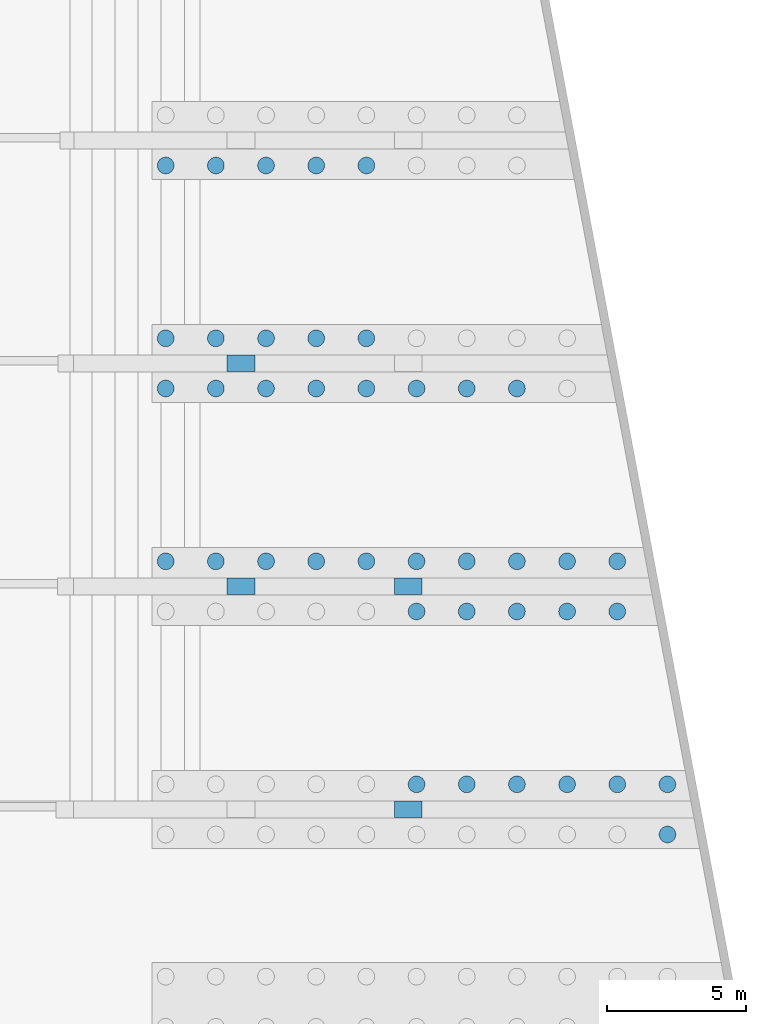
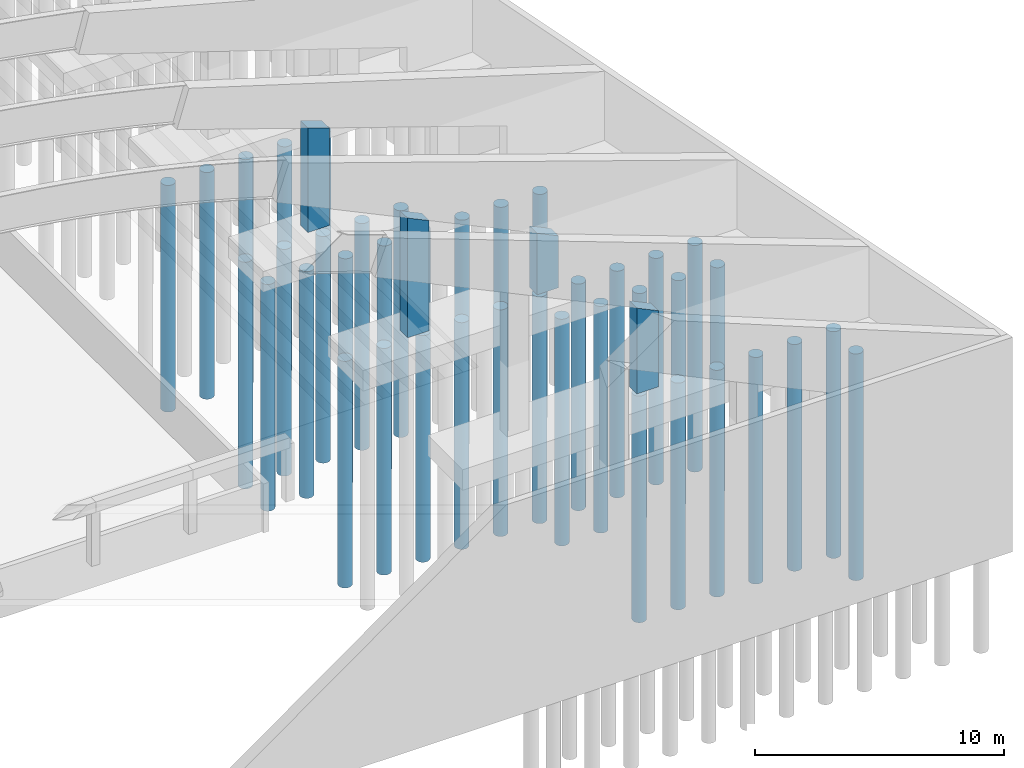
# One storey, part 3 of 10: 44 columns.
"""IFC2X3 building model written with IfcOpenShell, lengths in millimetres."""

from ifc_helpers import new_model, si_unit, derived_unit, direction, frame, frame_2d, origin, origin_2d_with_axis, place, context, subcontext, project, spatial, rectangle, circle, extrude, clip, halfspace, source, transform, mapped, material, type_object, type_shapes, element, save


model = new_model("IFC2X3")

# Units and contexts
model_context = context("Model", 3, precision=0.01, world=origin(), true_north=direction((6.12303176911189e-17, 1.0)))
body_context = subcontext(model_context, "Body", "Model", "MODEL_VIEW")
ifc_project = project(units=[si_unit("LENGTHUNIT", "METRE", prefix="MILLI"), si_unit("AREAUNIT", "SQUARE_METRE"), si_unit("VOLUMEUNIT", "CUBIC_METRE"), si_unit("PLANEANGLEUNIT", "RADIAN"), si_unit("MASSUNIT", "GRAM", prefix="KILO"), derived_unit("MASSDENSITYUNIT", [(si_unit("MASSUNIT", "GRAM", prefix="KILO"), 1), (si_unit("LENGTHUNIT", "METRE"), -3)]), si_unit("TIMEUNIT", "SECOND"), si_unit("FREQUENCYUNIT", "HERTZ"), si_unit("THERMODYNAMICTEMPERATUREUNIT", "DEGREE_CELSIUS"), derived_unit("THERMALTRANSMITTANCEUNIT", [(si_unit("MASSUNIT", "GRAM", prefix="KILO"), 1), (si_unit("THERMODYNAMICTEMPERATUREUNIT", "KELVIN"), -1), (si_unit("TIMEUNIT", "SECOND"), -3)]), derived_unit("VOLUMETRICFLOWRATEUNIT", [(si_unit("LENGTHUNIT", "METRE"), 3), (si_unit("TIMEUNIT", "SECOND"), -1)]), si_unit("ELECTRICCURRENTUNIT", "AMPERE"), si_unit("ELECTRICVOLTAGEUNIT", "VOLT"), si_unit("POWERUNIT", "WATT"), si_unit("FORCEUNIT", "NEWTON", prefix="KILO"), si_unit("ILLUMINANCEUNIT", "LUX"), si_unit("LUMINOUSFLUXUNIT", "LUMEN"), si_unit("LUMINOUSINTENSITYUNIT", "CANDELA"), derived_unit("USERDEFINED", [(si_unit("MASSUNIT", "GRAM", prefix="KILO"), -1), (si_unit("LENGTHUNIT", "METRE"), -2), (si_unit("TIMEUNIT", "SECOND"), 3), (si_unit("LUMINOUSFLUXUNIT", "LUMEN"), 1)]), derived_unit("LINEARVELOCITYUNIT", [(si_unit("LENGTHUNIT", "METRE"), 1), (si_unit("TIMEUNIT", "SECOND"), -1)]), si_unit("PRESSUREUNIT", "PASCAL"), derived_unit("USERDEFINED", [(si_unit("LENGTHUNIT", "METRE"), -2), (si_unit("MASSUNIT", "GRAM", prefix="KILO"), 1), (si_unit("TIMEUNIT", "SECOND"), -2)])], contexts=[model_context])

# Site, building, storey
site_placement = place(None, origin())
site = spatial("IfcSite", under=ifc_project, at=site_placement, Name="Default", CompositionType="ELEMENT")
building_placement = place(site_placement, origin())
building = spatial("IfcBuilding", under=site, at=building_placement, CompositionType="ELEMENT")
storey_placement = place(building_placement, origin())
storey = spatial("IfcBuildingStorey", under=building, at=storey_placement, Name="Default", CompositionType="ELEMENT", Elevation=0.0)

# Columns
ifc_material = material(Name="CONCRETE/28MPa 117")
column_type_1 = type_object("IfcColumnType", Name="PILOTE", PredefinedType="COLUMN")
shared_shape_1 = source(origin(), body_context, "Body", "SweptSolid", [
    extrude(circle(Radius=300.000000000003, at=origin_2d_with_axis()), frame((119408.86, 89902.3654658, -15300.0), z_axis=(0.0, 0.0, 1.0), x_axis=(-1.0, 0.0, 0.0)), (0.0, 0.0, 1.0), 11100.0),
])
type_shapes(column_type_1, [shared_shape_1])
column_1_placement = place(building_placement, origin())
element("IfcColumn", 1, at=column_1_placement, inside=storey, type_object=column_type_1, material=ifc_material, Name="PILOTE 176:PILOTE 176", ObjectType="PILOTE 176:PILOTE 176", context=body_context, shape_type="MappedRepresentation", body=[
    mapped(shared_shape_1, transform((0.0, 0.0, 0.0), scale=1.0)),
])
column_type_2 = type_object("IfcColumnType", Name="PILOTE", PredefinedType="COLUMN")
shared_shape_2 = source(origin(), body_context, "Body", "SweptSolid", [
    extrude(circle(Radius=300.000000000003, at=origin_2d_with_axis()), frame((117608.86, 89902.3654658, -15300.0), z_axis=(0.0, 0.0, 1.0), x_axis=(-1.0, 0.0, 0.0)), (0.0, 0.0, 1.0), 11100.0),
])
type_shapes(column_type_2, [shared_shape_2])
column_2_placement = place(building_placement, origin())
element("IfcColumn", 2, at=column_2_placement, inside=storey, type_object=column_type_2, material=ifc_material, Name="PILOTE 192:PILOTE 192", ObjectType="PILOTE 192:PILOTE 192", context=body_context, shape_type="MappedRepresentation", body=[
    mapped(shared_shape_2, transform((0.0, 0.0, 0.0), scale=1.0)),
])
column_type_3 = type_object("IfcColumnType", Name="PILOTE", PredefinedType="COLUMN")
shared_shape_3 = source(origin(), body_context, "Body", "SweptSolid", [
    extrude(circle(Radius=300.000000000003, at=origin_2d_with_axis()), frame((115808.86, 89902.3654658, -15300.0), z_axis=(0.0, 0.0, 1.0), x_axis=(-1.0, 0.0, 0.0)), (0.0, 0.0, 1.0), 11100.0),
])
type_shapes(column_type_3, [shared_shape_3])
column_3_placement = place(building_placement, origin())
element("IfcColumn", 3, at=column_3_placement, inside=storey, type_object=column_type_3, material=ifc_material, Name="PILOTE 208:PILOTE 208", ObjectType="PILOTE 208:PILOTE 208", context=body_context, shape_type="MappedRepresentation", body=[
    mapped(shared_shape_3, transform((0.0, 0.0, 0.0), scale=1.0)),
])
column_type_4 = type_object("IfcColumnType", Name="PILOTE", PredefinedType="COLUMN")
shared_shape_4 = source(origin(), body_context, "Body", "SweptSolid", [
    extrude(circle(Radius=300.000000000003, at=origin_2d_with_axis()), frame((114008.86, 91702.3654658, -15300.0), z_axis=(0.0, 0.0, 1.0), x_axis=(-1.0, 0.0, 0.0)), (0.0, 0.0, 1.0), 11100.0),
])
type_shapes(column_type_4, [shared_shape_4])
column_4_placement = place(building_placement, origin())
element("IfcColumn", 4, at=column_4_placement, inside=storey, type_object=column_type_4, material=ifc_material, Name="PILOTE 218:PILOTE 218", ObjectType="PILOTE 218:PILOTE 218", context=body_context, shape_type="MappedRepresentation", body=[
    mapped(shared_shape_4, transform((0.0, 0.0, 0.0), scale=1.0)),
])
column_type_5 = type_object("IfcColumnType", Name="PILOTE", PredefinedType="COLUMN")
shared_shape_5 = source(origin(), body_context, "Body", "SweptSolid", [
    extrude(circle(Radius=300.000000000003, at=origin_2d_with_axis()), frame((114008.86, 89902.3654658, -15300.0), z_axis=(0.0, 0.0, 1.0), x_axis=(-1.0, 0.0, 0.0)), (0.0, 0.0, 1.0), 11100.0),
])
type_shapes(column_type_5, [shared_shape_5])
column_5_placement = place(building_placement, origin())
element("IfcColumn", 5, at=column_5_placement, inside=storey, type_object=column_type_5, material=ifc_material, Name="PILOTE 228:PILOTE 228", ObjectType="PILOTE 228:PILOTE 228", context=body_context, shape_type="MappedRepresentation", body=[
    mapped(shared_shape_5, transform((0.0, 0.0, 0.0), scale=1.0)),
])
column_type_6 = type_object("IfcColumnType", Name="PILOTE", PredefinedType="COLUMN")
shared_shape_6 = source(origin(), body_context, "Body", "SweptSolid", [
    extrude(circle(Radius=300.000000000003, at=origin_2d_with_axis()), frame((112208.86, 91702.3654658, -15300.0), z_axis=(0.0, 0.0, 1.0), x_axis=(-1.0, 0.0, 0.0)), (0.0, 0.0, 1.0), 11100.0),
])
type_shapes(column_type_6, [shared_shape_6])
column_6_placement = place(building_placement, origin())
element("IfcColumn", 6, at=column_6_placement, inside=storey, type_object=column_type_6, material=ifc_material, Name="PILOTE 236:PILOTE 236", ObjectType="PILOTE 236:PILOTE 236", context=body_context, shape_type="MappedRepresentation", body=[
    mapped(shared_shape_6, transform((0.0, 0.0, 0.0), scale=1.0)),
])
column_type_7 = type_object("IfcColumnType", Name="PILOTE", PredefinedType="COLUMN")
shared_shape_7 = source(origin(), body_context, "Body", "SweptSolid", [
    extrude(circle(Radius=300.000000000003, at=origin_2d_with_axis()), frame((112208.86, 89902.3654658, -15300.0), z_axis=(0.0, 0.0, 1.0), x_axis=(-1.0, 0.0, 0.0)), (0.0, 0.0, 1.0), 11100.0),
])
type_shapes(column_type_7, [shared_shape_7])
column_7_placement = place(building_placement, origin())
element("IfcColumn", 7, at=column_7_placement, inside=storey, type_object=column_type_7, material=ifc_material, Name="PILOTE 244:PILOTE 244", ObjectType="PILOTE 244:PILOTE 244", context=body_context, shape_type="MappedRepresentation", body=[
    mapped(shared_shape_7, transform((0.0, 0.0, 0.0), scale=1.0)),
])
column_type_8 = type_object("IfcColumnType", Name="PILOTE", PredefinedType="COLUMN")
shared_shape_8 = source(origin(), body_context, "Body", "SweptSolid", [
    extrude(circle(Radius=300.000000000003, at=origin_2d_with_axis()), frame((110408.86, 91702.3654658, -15300.0), z_axis=(0.0, 0.0, 1.0), x_axis=(-1.0, 0.0, 0.0)), (0.0, 0.0, 1.0), 11100.0),
])
type_shapes(column_type_8, [shared_shape_8])
column_8_placement = place(building_placement, origin())
element("IfcColumn", 8, at=column_8_placement, inside=storey, type_object=column_type_8, material=ifc_material, Name="PILOTE 252:PILOTE 252", ObjectType="PILOTE 252:PILOTE 252", context=body_context, shape_type="MappedRepresentation", body=[
    mapped(shared_shape_8, transform((0.0, 0.0, 0.0), scale=1.0)),
])
column_type_9 = type_object("IfcColumnType", Name="PILOTE", PredefinedType="COLUMN")
shared_shape_9 = source(origin(), body_context, "Body", "SweptSolid", [
    extrude(circle(Radius=300.000000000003, at=origin_2d_with_axis()), frame((110408.86, 89902.3654658, -15300.0), z_axis=(0.0, 0.0, 1.0), x_axis=(-1.0, 0.0, 0.0)), (0.0, 0.0, 1.0), 11100.0),
])
type_shapes(column_type_9, [shared_shape_9])
column_9_placement = place(building_placement, origin())
element("IfcColumn", 9, at=column_9_placement, inside=storey, type_object=column_type_9, material=ifc_material, Name="PILOTE 260:PILOTE 260", ObjectType="PILOTE 260:PILOTE 260", context=body_context, shape_type="MappedRepresentation", body=[
    mapped(shared_shape_9, transform((0.0, 0.0, 0.0), scale=1.0)),
])
column_type_10 = type_object("IfcColumnType", Name="PILOTE", PredefinedType="COLUMN")
shared_shape_10 = source(origin(), body_context, "Body", "SweptSolid", [
    extrude(circle(Radius=300.000000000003, at=origin_2d_with_axis()), frame((108608.86, 91702.3654658, -15300.0), z_axis=(0.0, 0.0, 1.0), x_axis=(-1.0, 0.0, 0.0)), (0.0, 0.0, 1.0), 11100.0),
])
type_shapes(column_type_10, [shared_shape_10])
column_10_placement = place(building_placement, origin())
element("IfcColumn", 10, at=column_10_placement, inside=storey, type_object=column_type_10, material=ifc_material, Name="PILOTE 270:PILOTE 270", ObjectType="PILOTE 270:PILOTE 270", context=body_context, shape_type="MappedRepresentation", body=[
    mapped(shared_shape_10, transform((0.0, 0.0, 0.0), scale=1.0)),
])
column_type_11 = type_object("IfcColumnType", Name="PILOTE", PredefinedType="COLUMN")
shared_shape_11 = source(origin(), body_context, "Body", "SweptSolid", [
    extrude(circle(Radius=300.000000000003, at=origin_2d_with_axis()), frame((106808.86, 91702.3654658, -15300.0), z_axis=(0.0, 0.0, 1.0), x_axis=(-1.0, 0.0, 0.0)), (0.0, 0.0, 1.0), 11100.0),
])
type_shapes(column_type_11, [shared_shape_11])
column_11_placement = place(building_placement, origin())
element("IfcColumn", 11, at=column_11_placement, inside=storey, type_object=column_type_11, material=ifc_material, Name="PILOTE 278:PILOTE 278", ObjectType="PILOTE 278:PILOTE 278", context=body_context, shape_type="MappedRepresentation", body=[
    mapped(shared_shape_11, transform((0.0, 0.0, 0.0), scale=1.0)),
])
column_type_12 = type_object("IfcColumnType", Name="PILOTE", PredefinedType="COLUMN")
shared_shape_12 = source(origin(), body_context, "Body", "SweptSolid", [
    extrude(circle(Radius=300.000000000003, at=origin_2d_with_axis()), frame((108608.86, 89902.3654658, -15300.0), z_axis=(0.0, 0.0, 1.0), x_axis=(-1.0, 0.0, 0.0)), (0.0, 0.0, 1.0), 11100.0),
])
type_shapes(column_type_12, [shared_shape_12])
column_12_placement = place(building_placement, origin())
element("IfcColumn", 12, at=column_12_placement, inside=storey, type_object=column_type_12, material=ifc_material, Name="PILOTE 288:PILOTE 288", ObjectType="PILOTE 288:PILOTE 288", context=body_context, shape_type="MappedRepresentation", body=[
    mapped(shared_shape_12, transform((0.0, 0.0, 0.0), scale=1.0)),
])
column_type_13 = type_object("IfcColumnType", Name="PILOTE", PredefinedType="COLUMN")
shared_shape_13 = source(origin(), body_context, "Body", "SweptSolid", [
    extrude(circle(Radius=300.000000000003, at=origin_2d_with_axis()), frame((106808.86, 89902.3654658, -15300.0), z_axis=(0.0, 0.0, 1.0), x_axis=(-1.0, 0.0, 0.0)), (0.0, 0.0, 1.0), 11100.0),
])
type_shapes(column_type_13, [shared_shape_13])
column_13_placement = place(building_placement, origin())
element("IfcColumn", 13, at=column_13_placement, inside=storey, type_object=column_type_13, material=ifc_material, Name="PILOTE 296:PILOTE 296", ObjectType="PILOTE 296:PILOTE 296", context=body_context, shape_type="MappedRepresentation", body=[
    mapped(shared_shape_13, transform((0.0, 0.0, 0.0), scale=1.0)),
])
column_type_14 = type_object("IfcColumnType", Name="PILOTE", PredefinedType="COLUMN")
shared_shape_14 = source(origin(), body_context, "Body", "SweptSolid", [
    extrude(circle(Radius=300.000000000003, at=origin_2d_with_axis()), frame((114008.86, 97902.3654658, -15300.0), z_axis=(0.0, 0.0, 1.0), x_axis=(-1.0, 0.0, 0.0)), (0.0, 0.0, 1.0), 11100.0),
])
type_shapes(column_type_14, [shared_shape_14])
column_14_placement = place(building_placement, origin())
element("IfcColumn", 14, at=column_14_placement, inside=storey, type_object=column_type_14, material=ifc_material, Name="PILOTE 714:PILOTE 714", ObjectType="PILOTE 714:PILOTE 714", context=body_context, shape_type="MappedRepresentation", body=[
    mapped(shared_shape_14, transform((0.0, 0.0, 0.0), scale=1.0)),
])
column_type_15 = type_object("IfcColumnType", Name="PILOTE", PredefinedType="COLUMN")
shared_shape_15 = source(origin(), body_context, "Body", "SweptSolid", [
    extrude(circle(Radius=300.000000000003, at=origin_2d_with_axis()), frame((112208.86, 97902.3654658, -15300.0), z_axis=(0.0, 0.0, 1.0), x_axis=(-1.0, 0.0, 0.0)), (0.0, 0.0, 1.0), 11100.0),
])
type_shapes(column_type_15, [shared_shape_15])
column_15_placement = place(building_placement, origin())
element("IfcColumn", 15, at=column_15_placement, inside=storey, type_object=column_type_15, material=ifc_material, Name="PILOTE 730:PILOTE 730", ObjectType="PILOTE 730:PILOTE 730", context=body_context, shape_type="MappedRepresentation", body=[
    mapped(shared_shape_15, transform((0.0, 0.0, 0.0), scale=1.0)),
])
column_type_16 = type_object("IfcColumnType", Name="PILOTE", PredefinedType="COLUMN")
shared_shape_16 = source(origin(), body_context, "Body", "SweptSolid", [
    extrude(circle(Radius=300.000000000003, at=origin_2d_with_axis()), frame((110408.86, 97902.3654658, -15300.0), z_axis=(0.0, 0.0, 1.0), x_axis=(-1.0, 0.0, 0.0)), (0.0, 0.0, 1.0), 11100.0),
])
type_shapes(column_type_16, [shared_shape_16])
column_16_placement = place(building_placement, origin())
element("IfcColumn", 16, at=column_16_placement, inside=storey, type_object=column_type_16, material=ifc_material, Name="PILOTE 746:PILOTE 746", ObjectType="PILOTE 746:PILOTE 746", context=body_context, shape_type="MappedRepresentation", body=[
    mapped(shared_shape_16, transform((0.0, 0.0, 0.0), scale=1.0)),
])
column_type_17 = type_object("IfcColumnType", Name="PILOTE", PredefinedType="COLUMN")
shared_shape_17 = source(origin(), body_context, "Body", "SweptSolid", [
    extrude(circle(Radius=300.000000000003, at=origin_2d_with_axis()), frame((108608.86, 97902.3654658, -15300.0), z_axis=(0.0, 0.0, 1.0), x_axis=(-1.0, 0.0, 0.0)), (0.0, 0.0, 1.0), 11100.0),
])
type_shapes(column_type_17, [shared_shape_17])
column_17_placement = place(building_placement, origin())
element("IfcColumn", 17, at=column_17_placement, inside=storey, type_object=column_type_17, material=ifc_material, Name="PILOTE 770:PILOTE 770", ObjectType="PILOTE 770:PILOTE 770", context=body_context, shape_type="MappedRepresentation", body=[
    mapped(shared_shape_17, transform((0.0, 0.0, 0.0), scale=1.0)),
])
column_type_18 = type_object("IfcColumnType", Name="PILOTE", PredefinedType="COLUMN")
shared_shape_18 = source(origin(), body_context, "Body", "SweptSolid", [
    extrude(circle(Radius=300.000000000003, at=origin_2d_with_axis()), frame((106808.86, 97902.3654658, -15300.0), z_axis=(0.0, 0.0, 1.0), x_axis=(-1.0, 0.0, 0.0)), (0.0, 0.0, 1.0), 11100.0),
])
type_shapes(column_type_18, [shared_shape_18])
column_18_placement = place(building_placement, origin())
element("IfcColumn", 18, at=column_18_placement, inside=storey, type_object=column_type_18, material=ifc_material, Name="PILOTE 778:PILOTE 778", ObjectType="PILOTE 778:PILOTE 778", context=body_context, shape_type="MappedRepresentation", body=[
    mapped(shared_shape_18, transform((0.0, 0.0, 0.0), scale=1.0)),
])
column_type_19 = type_object("IfcColumnType", Name="PILOTE", PredefinedType="COLUMN")
shared_shape_19 = source(origin(), body_context, "Body", "SweptSolid", [
    extrude(circle(Radius=300.000000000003, at=origin_2d_with_axis()), frame((123008.86, 83702.3654658, -15300.0), z_axis=(0.0, 0.0, 1.0), x_axis=(-1.0, 0.0, 0.0)), (0.0, 0.0, 1.0), 11100.0),
])
type_shapes(column_type_19, [shared_shape_19])
column_19_placement = place(building_placement, origin())
element("IfcColumn", 19, at=column_19_placement, inside=storey, type_object=column_type_19, material=ifc_material, Name="PILOTE 788:PILOTE 788", ObjectType="PILOTE 788:PILOTE 788", context=body_context, shape_type="MappedRepresentation", body=[
    mapped(shared_shape_19, transform((0.0, 0.0, 0.0), scale=1.0)),
])
column_type_20 = type_object("IfcColumnType", Name="PILOTE", PredefinedType="COLUMN")
shared_shape_20 = source(origin(), body_context, "Body", "SweptSolid", [
    extrude(circle(Radius=300.000000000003, at=origin_2d_with_axis()), frame((123008.86, 81902.3654658, -15300.0), z_axis=(0.0, 0.0, 1.0), x_axis=(-1.0, 0.0, 0.0)), (0.0, 0.0, 1.0), 11100.0),
])
type_shapes(column_type_20, [shared_shape_20])
column_20_placement = place(building_placement, origin())
element("IfcColumn", 20, at=column_20_placement, inside=storey, type_object=column_type_20, material=ifc_material, Name="PILOTE 798:PILOTE 798", ObjectType="PILOTE 798:PILOTE 798", context=body_context, shape_type="MappedRepresentation", body=[
    mapped(shared_shape_20, transform((0.0, 0.0, 0.0), scale=1.0)),
])
column_type_21 = type_object("IfcColumnType", Name="PILOTE", PredefinedType="COLUMN")
shared_shape_21 = source(origin(), body_context, "Body", "SweptSolid", [
    extrude(circle(Radius=300.000000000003, at=origin_2d_with_axis()), frame((121208.86, 83702.3654658, -15300.0), z_axis=(0.0, 0.0, 1.0), x_axis=(-1.0, 0.0, 0.0)), (0.0, 0.0, 1.0), 11100.0),
])
type_shapes(column_type_21, [shared_shape_21])
column_21_placement = place(building_placement, origin())
element("IfcColumn", 21, at=column_21_placement, inside=storey, type_object=column_type_21, material=ifc_material, Name="PILOTE 806:PILOTE 806", ObjectType="PILOTE 806:PILOTE 806", context=body_context, shape_type="MappedRepresentation", body=[
    mapped(shared_shape_21, transform((0.0, 0.0, 0.0), scale=1.0)),
])
column_type_22 = type_object("IfcColumnType", Name="PILOTE", PredefinedType="COLUMN")
shared_shape_22 = source(origin(), body_context, "Body", "SweptSolid", [
    extrude(circle(Radius=300.000000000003, at=origin_2d_with_axis()), frame((121208.86, 81902.3654658, -15300.0), z_axis=(0.0, 0.0, 1.0), x_axis=(-1.0, 0.0, 0.0)), (0.0, 0.0, 1.0), 11100.0),
])
type_shapes(column_type_22, [shared_shape_22])
column_22_placement = place(building_placement, origin())
element("IfcColumn", 22, at=column_22_placement, inside=storey, type_object=column_type_22, material=ifc_material, Name="PILOTE 816:PILOTE 816", ObjectType="PILOTE 816:PILOTE 816", context=body_context, shape_type="MappedRepresentation", body=[
    mapped(shared_shape_22, transform((0.0, 0.0, 0.0), scale=1.0)),
])
column_type_23 = type_object("IfcColumnType", Name="PILOTE", PredefinedType="COLUMN")
shared_shape_23 = source(origin(), body_context, "Body", "SweptSolid", [
    extrude(circle(Radius=300.000000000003, at=origin_2d_with_axis()), frame((119408.86, 83702.3654658, -15300.0), z_axis=(0.0, 0.0, 1.0), x_axis=(-1.0, 0.0, 0.0)), (0.0, 0.0, 1.0), 11100.0),
])
type_shapes(column_type_23, [shared_shape_23])
column_23_placement = place(building_placement, origin())
element("IfcColumn", 23, at=column_23_placement, inside=storey, type_object=column_type_23, material=ifc_material, Name="PILOTE 824:PILOTE 824", ObjectType="PILOTE 824:PILOTE 824", context=body_context, shape_type="MappedRepresentation", body=[
    mapped(shared_shape_23, transform((0.0, 0.0, 0.0), scale=1.0)),
])
column_type_24 = type_object("IfcColumnType", Name="PILOTE", PredefinedType="COLUMN")
shared_shape_24 = source(origin(), body_context, "Body", "SweptSolid", [
    extrude(circle(Radius=300.000000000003, at=origin_2d_with_axis()), frame((119408.86, 81902.3654658, -15300.0), z_axis=(0.0, 0.0, 1.0), x_axis=(-1.0, 0.0, 0.0)), (0.0, 0.0, 1.0), 11100.0),
])
type_shapes(column_type_24, [shared_shape_24])
column_24_placement = place(building_placement, origin())
element("IfcColumn", 24, at=column_24_placement, inside=storey, type_object=column_type_24, material=ifc_material, Name="PILOTE 832:PILOTE 832", ObjectType="PILOTE 832:PILOTE 832", context=body_context, shape_type="MappedRepresentation", body=[
    mapped(shared_shape_24, transform((0.0, 0.0, 0.0), scale=1.0)),
])
column_type_25 = type_object("IfcColumnType", Name="PILOTE", PredefinedType="COLUMN")
shared_shape_25 = source(origin(), body_context, "Body", "SweptSolid", [
    extrude(circle(Radius=300.000000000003, at=origin_2d_with_axis()), frame((117608.86, 83702.3654658, -15300.0), z_axis=(0.0, 0.0, 1.0), x_axis=(-1.0, 0.0, 0.0)), (0.0, 0.0, 1.0), 11100.0),
])
type_shapes(column_type_25, [shared_shape_25])
column_25_placement = place(building_placement, origin())
element("IfcColumn", 25, at=column_25_placement, inside=storey, type_object=column_type_25, material=ifc_material, Name="PILOTE 840:PILOTE 840", ObjectType="PILOTE 840:PILOTE 840", context=body_context, shape_type="MappedRepresentation", body=[
    mapped(shared_shape_25, transform((0.0, 0.0, 0.0), scale=1.0)),
])
column_type_26 = type_object("IfcColumnType", Name="PILOTE", PredefinedType="COLUMN")
shared_shape_26 = source(origin(), body_context, "Body", "SweptSolid", [
    extrude(circle(Radius=300.000000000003, at=origin_2d_with_axis()), frame((117608.86, 81902.3654658, -15300.0), z_axis=(0.0, 0.0, 1.0), x_axis=(-1.0, 0.0, 0.0)), (0.0, 0.0, 1.0), 11100.0),
])
type_shapes(column_type_26, [shared_shape_26])
column_26_placement = place(building_placement, origin())
element("IfcColumn", 26, at=column_26_placement, inside=storey, type_object=column_type_26, material=ifc_material, Name="PILOTE 848:PILOTE 848", ObjectType="PILOTE 848:PILOTE 848", context=body_context, shape_type="MappedRepresentation", body=[
    mapped(shared_shape_26, transform((0.0, 0.0, 0.0), scale=1.0)),
])
column_type_27 = type_object("IfcColumnType", Name="PILOTE", PredefinedType="COLUMN")
shared_shape_27 = source(origin(), body_context, "Body", "SweptSolid", [
    extrude(circle(Radius=300.000000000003, at=origin_2d_with_axis()), frame((115808.86, 83702.3654658, -15300.0), z_axis=(0.0, 0.0, 1.0), x_axis=(-1.0, 0.0, 0.0)), (0.0, 0.0, 1.0), 11100.0),
])
type_shapes(column_type_27, [shared_shape_27])
column_27_placement = place(building_placement, origin())
element("IfcColumn", 27, at=column_27_placement, inside=storey, type_object=column_type_27, material=ifc_material, Name="PILOTE 856:PILOTE 856", ObjectType="PILOTE 856:PILOTE 856", context=body_context, shape_type="MappedRepresentation", body=[
    mapped(shared_shape_27, transform((0.0, 0.0, 0.0), scale=1.0)),
])
column_type_28 = type_object("IfcColumnType", Name="PILOTE", PredefinedType="COLUMN")
shared_shape_28 = source(origin(), body_context, "Body", "SweptSolid", [
    extrude(circle(Radius=300.000000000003, at=origin_2d_with_axis()), frame((115808.86, 81902.3654658, -15300.0), z_axis=(0.0, 0.0, 1.0), x_axis=(-1.0, 0.0, 0.0)), (0.0, 0.0, 1.0), 11100.0),
])
type_shapes(column_type_28, [shared_shape_28])
column_28_placement = place(building_placement, origin())
element("IfcColumn", 28, at=column_28_placement, inside=storey, type_object=column_type_28, material=ifc_material, Name="PILOTE 864:PILOTE 864", ObjectType="PILOTE 864:PILOTE 864", context=body_context, shape_type="MappedRepresentation", body=[
    mapped(shared_shape_28, transform((0.0, 0.0, 0.0), scale=1.0)),
])
column_type_29 = type_object("IfcColumnType", Name="PILOTE", PredefinedType="COLUMN")
shared_shape_29 = source(origin(), body_context, "Body", "SweptSolid", [
    extrude(circle(Radius=300.000000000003, at=origin_2d_with_axis()), frame((114008.86, 83702.3654658, -15300.0), z_axis=(0.0, 0.0, 1.0), x_axis=(-1.0, 0.0, 0.0)), (0.0, 0.0, 1.0), 11100.0),
])
type_shapes(column_type_29, [shared_shape_29])
column_29_placement = place(building_placement, origin())
element("IfcColumn", 29, at=column_29_placement, inside=storey, type_object=column_type_29, material=ifc_material, Name="PILOTE 872:PILOTE 872", ObjectType="PILOTE 872:PILOTE 872", context=body_context, shape_type="MappedRepresentation", body=[
    mapped(shared_shape_29, transform((0.0, 0.0, 0.0), scale=1.0)),
])
column_type_30 = type_object("IfcColumnType", Name="PILOTE", PredefinedType="COLUMN")
shared_shape_30 = source(origin(), body_context, "Body", "SweptSolid", [
    extrude(circle(Radius=300.000000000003, at=origin_2d_with_axis()), frame((112208.86, 83702.3654658, -15300.0), z_axis=(0.0, 0.0, 1.0), x_axis=(-1.0, 0.0, 0.0)), (0.0, 0.0, 1.0), 11100.0),
])
type_shapes(column_type_30, [shared_shape_30])
column_30_placement = place(building_placement, origin())
element("IfcColumn", 30, at=column_30_placement, inside=storey, type_object=column_type_30, material=ifc_material, Name="PILOTE 890:PILOTE 890", ObjectType="PILOTE 890:PILOTE 890", context=body_context, shape_type="MappedRepresentation", body=[
    mapped(shared_shape_30, transform((0.0, 0.0, 0.0), scale=1.0)),
])
column_type_31 = type_object("IfcColumnType", Name="PILOTE", PredefinedType="COLUMN")
shared_shape_31 = source(origin(), body_context, "Body", "SweptSolid", [
    extrude(circle(Radius=300.000000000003, at=origin_2d_with_axis()), frame((110408.86, 83702.3654658, -15300.0), z_axis=(0.0, 0.0, 1.0), x_axis=(-1.0, 0.0, 0.0)), (0.0, 0.0, 1.0), 11100.0),
])
type_shapes(column_type_31, [shared_shape_31])
column_31_placement = place(building_placement, origin())
element("IfcColumn", 31, at=column_31_placement, inside=storey, type_object=column_type_31, material=ifc_material, Name="PILOTE 906:PILOTE 906", ObjectType="PILOTE 906:PILOTE 906", context=body_context, shape_type="MappedRepresentation", body=[
    mapped(shared_shape_31, transform((0.0, 0.0, 0.0), scale=1.0)),
])
column_type_32 = type_object("IfcColumnType", Name="PILOTE", PredefinedType="COLUMN")
shared_shape_32 = source(origin(), body_context, "Body", "SweptSolid", [
    extrude(circle(Radius=300.000000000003, at=origin_2d_with_axis()), frame((108608.86, 83702.3654658, -15300.0), z_axis=(0.0, 0.0, 1.0), x_axis=(-1.0, 0.0, 0.0)), (0.0, 0.0, 1.0), 11100.0),
])
type_shapes(column_type_32, [shared_shape_32])
column_32_placement = place(building_placement, origin())
element("IfcColumn", 32, at=column_32_placement, inside=storey, type_object=column_type_32, material=ifc_material, Name="PILOTE 922:PILOTE 922", ObjectType="PILOTE 922:PILOTE 922", context=body_context, shape_type="MappedRepresentation", body=[
    mapped(shared_shape_32, transform((0.0, 0.0, 0.0), scale=1.0)),
])
column_type_33 = type_object("IfcColumnType", Name="PILOTE", PredefinedType="COLUMN")
shared_shape_33 = source(origin(), body_context, "Body", "SweptSolid", [
    extrude(circle(Radius=300.000000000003, at=origin_2d_with_axis()), frame((106808.86, 83702.3654658, -15300.0), z_axis=(0.0, 0.0, 1.0), x_axis=(-1.0, 0.0, 0.0)), (0.0, 0.0, 1.0), 11100.0),
])
type_shapes(column_type_33, [shared_shape_33])
column_33_placement = place(building_placement, origin())
element("IfcColumn", 33, at=column_33_placement, inside=storey, type_object=column_type_33, material=ifc_material, Name="PILOTE 930:PILOTE 930", ObjectType="PILOTE 930:PILOTE 930", context=body_context, shape_type="MappedRepresentation", body=[
    mapped(shared_shape_33, transform((0.0, 0.0, 0.0), scale=1.0)),
])
column_type_34 = type_object("IfcColumnType", Name="PILOTE", PredefinedType="COLUMN")
shared_shape_34 = source(origin(), body_context, "Body", "SweptSolid", [
    extrude(circle(Radius=300.000000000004, at=origin_2d_with_axis()), frame((124808.86, 75702.3654658, -15300.0), z_axis=(0.0, 0.0, 1.0), x_axis=(-1.0, 0.0, 0.0)), (0.0, 0.0, 1.0), 11100.0),
])
type_shapes(column_type_34, [shared_shape_34])
column_34_placement = place(building_placement, origin())
element("IfcColumn", 34, at=column_34_placement, inside=storey, type_object=column_type_34, material=ifc_material, Name="PILOTE 1146:PILOTE 1146", ObjectType="PILOTE 1146:PILOTE 1146", context=body_context, shape_type="MappedRepresentation", body=[
    mapped(shared_shape_34, transform((0.0, 0.0, 0.0), scale=1.0)),
])
column_type_35 = type_object("IfcColumnType", Name="PILOTE", PredefinedType="COLUMN")
shared_shape_35 = source(origin(), body_context, "Body", "SweptSolid", [
    extrude(circle(Radius=300.000000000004, at=origin_2d_with_axis()), frame((124808.86, 73902.3654658, -15300.0), z_axis=(0.0, 0.0, 1.0), x_axis=(-1.0, 0.0, 0.0)), (0.0, 0.0, 1.0), 11100.0),
])
type_shapes(column_type_35, [shared_shape_35])
column_35_placement = place(building_placement, origin())
element("IfcColumn", 35, at=column_35_placement, inside=storey, type_object=column_type_35, material=ifc_material, Name="PILOTE 1154:PILOTE 1154", ObjectType="PILOTE 1154:PILOTE 1154", context=body_context, shape_type="MappedRepresentation", body=[
    mapped(shared_shape_35, transform((0.0, 0.0, 0.0), scale=1.0)),
])
column_type_36 = type_object("IfcColumnType", Name="PILOTE", PredefinedType="COLUMN")
shared_shape_36 = source(origin(), body_context, "Body", "SweptSolid", [
    extrude(circle(Radius=300.000000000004, at=origin_2d_with_axis()), frame((123008.86, 75702.3654658, -15300.0), z_axis=(0.0, 0.0, 1.0), x_axis=(-1.0, 0.0, 0.0)), (0.0, 0.0, 1.0), 11100.0),
])
type_shapes(column_type_36, [shared_shape_36])
column_36_placement = place(building_placement, origin())
element("IfcColumn", 36, at=column_36_placement, inside=storey, type_object=column_type_36, material=ifc_material, Name="PILOTE 1162:PILOTE 1162", ObjectType="PILOTE 1162:PILOTE 1162", context=body_context, shape_type="MappedRepresentation", body=[
    mapped(shared_shape_36, transform((0.0, 0.0, 0.0), scale=1.0)),
])
column_type_37 = type_object("IfcColumnType", Name="PILOTE", PredefinedType="COLUMN")
shared_shape_37 = source(origin(), body_context, "Body", "SweptSolid", [
    extrude(circle(Radius=300.000000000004, at=origin_2d_with_axis()), frame((121208.86, 75702.3654658, -15300.0), z_axis=(0.0, 0.0, 1.0), x_axis=(-1.0, 0.0, 0.0)), (0.0, 0.0, 1.0), 11100.0),
])
type_shapes(column_type_37, [shared_shape_37])
column_37_placement = place(building_placement, origin())
element("IfcColumn", 37, at=column_37_placement, inside=storey, type_object=column_type_37, material=ifc_material, Name="PILOTE 1178:PILOTE 1178", ObjectType="PILOTE 1178:PILOTE 1178", context=body_context, shape_type="MappedRepresentation", body=[
    mapped(shared_shape_37, transform((0.0, 0.0, 0.0), scale=1.0)),
])
column_type_38 = type_object("IfcColumnType", Name="PILOTE", PredefinedType="COLUMN")
shared_shape_38 = source(origin(), body_context, "Body", "SweptSolid", [
    extrude(circle(Radius=300.000000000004, at=origin_2d_with_axis()), frame((119408.86, 75702.3654658, -15300.0), z_axis=(0.0, 0.0, 1.0), x_axis=(-1.0, 0.0, 0.0)), (0.0, 0.0, 1.0), 11100.0),
])
type_shapes(column_type_38, [shared_shape_38])
column_38_placement = place(building_placement, origin())
element("IfcColumn", 38, at=column_38_placement, inside=storey, type_object=column_type_38, material=ifc_material, Name="PILOTE 1194:PILOTE 1194", ObjectType="PILOTE 1194:PILOTE 1194", context=body_context, shape_type="MappedRepresentation", body=[
    mapped(shared_shape_38, transform((0.0, 0.0, 0.0), scale=1.0)),
])
column_type_39 = type_object("IfcColumnType", Name="PILOTE", PredefinedType="COLUMN")
shared_shape_39 = source(origin(), body_context, "Body", "SweptSolid", [
    extrude(circle(Radius=300.000000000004, at=origin_2d_with_axis()), frame((117608.86, 75702.3654658, -15300.0), z_axis=(0.0, 0.0, 1.0), x_axis=(-1.0, 0.0, 0.0)), (0.0, 0.0, 1.0), 11100.0),
])
type_shapes(column_type_39, [shared_shape_39])
column_39_placement = place(building_placement, origin())
element("IfcColumn", 39, at=column_39_placement, inside=storey, type_object=column_type_39, material=ifc_material, Name="PILOTE 1210:PILOTE 1210", ObjectType="PILOTE 1210:PILOTE 1210", context=body_context, shape_type="MappedRepresentation", body=[
    mapped(shared_shape_39, transform((0.0, 0.0, 0.0), scale=1.0)),
])
column_type_40 = type_object("IfcColumnType", Name="PILOTE", PredefinedType="COLUMN")
shared_shape_40 = source(origin(), body_context, "Body", "SweptSolid", [
    extrude(circle(Radius=300.000000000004, at=origin_2d_with_axis()), frame((115808.86, 75702.3654658, -15300.0), z_axis=(0.0, 0.0, 1.0), x_axis=(-1.0, 0.0, 0.0)), (0.0, 0.0, 1.0), 11100.0),
])
type_shapes(column_type_40, [shared_shape_40])
column_40_placement = place(building_placement, origin())
element("IfcColumn", 40, at=column_40_placement, inside=storey, type_object=column_type_40, material=ifc_material, Name="PILOTE 1226:PILOTE 1226", ObjectType="PILOTE 1226:PILOTE 1226", context=body_context, shape_type="MappedRepresentation", body=[
    mapped(shared_shape_40, transform((0.0, 0.0, 0.0), scale=1.0)),
])
column_type_41 = type_object("IfcColumnType", Name="COLUMNA", PredefinedType="COLUMN")
shared_shape_41 = source(origin(), body_context, "Body", "Clipping", [
    clip(extrude(rectangle(XDim=599.999999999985, YDim=999.999999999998, at=frame_2d((-8.64019966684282e-12, 0.0), x_axis=(1.0, 0.0))), frame((109508.8630785, 90804.7397724, -3000.00357002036), z_axis=(0.0, 0.0, 1.0), x_axis=(0.0, -1.0, 0.0)), (0.0, 0.0, 1.0), 5113.61060400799), halfspace(frame((104197.8610281, 96356.0904573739, 3739.14455028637), z_axis=(0.320101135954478, 0.0, 0.947383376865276), x_axis=(0.947383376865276, 0.0, -0.320101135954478)), False)),
])
type_shapes(column_type_41, [shared_shape_41])
column_41_placement = place(building_placement, origin())
element("IfcColumn", 41, at=column_41_placement, inside=storey, type_object=column_type_41, Name="COLUMNA 2100:COLUMNA 2100", ObjectType="COLUMNA 2100:COLUMNA 2100", context=body_context, shape_type="MappedRepresentation", body=[
    mapped(shared_shape_41, transform((0.0, 0.0, 0.0), scale=1.0)),
])
column_type_42 = type_object("IfcColumnType", Name="COLUMNA", PredefinedType="COLUMN")
shared_shape_42 = source(origin(), body_context, "Body", "Clipping", [
    clip(extrude(rectangle(XDim=600.000000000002, YDim=999.999999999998, at=frame_2d((0.0, -8.66862137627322e-12), x_axis=(1.0, 0.0))), frame((109508.8630785, 82803.9483369, -3300.00170111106), z_axis=(0.0, 0.0, 1.0), x_axis=(0.0, -1.0, 0.0)), (0.0, 0.0, 1.0), 5865.56521391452), halfspace(frame((103736.45839146, 89091.4500546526, 5069.73017036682), z_axis=(0.429025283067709, 0.0, 0.903292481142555), x_axis=(0.903292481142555, 0.0, -0.429025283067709)), False)),
])
type_shapes(column_type_42, [shared_shape_42])
column_42_placement = place(building_placement, origin())
element("IfcColumn", 42, at=column_42_placement, inside=storey, type_object=column_type_42, Name="COLUMNA 2136:COLUMNA 2136", ObjectType="COLUMNA 2136:COLUMNA 2136", context=body_context, shape_type="MappedRepresentation", body=[
    mapped(shared_shape_42, transform((0.0, 0.0, 0.0), scale=1.0)),
])
column_type_43 = type_object("IfcColumnType", Name="COLUMNA", PredefinedType="COLUMN")
shared_shape_43 = source(origin(), body_context, "Body", "Clipping", [
    clip(extrude(rectangle(XDim=599.999999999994, YDim=1000.00000000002, at=frame_2d((-4.32009983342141e-12, 8.66862137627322e-12), x_axis=(1.0, 0.0))), frame((115508.8630785, 74803.9483369, -3299.99618745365), z_axis=(0.0, 0.0, 1.0), x_axis=(0.0, -1.0, 0.0)), (0.0, 0.0, 1.0), 4204.55438198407), halfspace(frame((111197.194928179, 79474.3250485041, 2714.93749170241), z_axis=(0.429025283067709, 0.0, 0.903292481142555), x_axis=(0.903292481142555, 0.0, -0.429025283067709)), False)),
])
type_shapes(column_type_43, [shared_shape_43])
column_43_placement = place(building_placement, origin())
element("IfcColumn", 43, at=column_43_placement, inside=storey, type_object=column_type_43, Name="COLUMNA 2203:COLUMNA 2203", ObjectType="COLUMNA 2203:COLUMNA 2203", context=body_context, shape_type="MappedRepresentation", body=[
    mapped(shared_shape_43, transform((0.0, 0.0, 0.0), scale=1.0)),
])
column_type_44 = type_object("IfcColumnType", Name="COLUMNA", PredefinedType="COLUMN")
shared_shape_44 = source(origin(), body_context, "Body", "Clipping", [
    clip(extrude(rectangle(XDim=600.000000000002, YDim=1000.00000000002, at=frame_2d((0.0, 8.66862137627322e-12), x_axis=(1.0, 0.0))), frame((115508.8630785, 82803.9483369, -3300.00500397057), z_axis=(0.0, 0.0, 1.0), x_axis=(0.0, -1.0, 0.0)), (0.0, 0.0, 1.0), 3015.82521391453), halfspace(frame((112217.835550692, 86344.4138387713, 1041.4388773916), z_axis=(0.429025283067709, 0.0, 0.903292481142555), x_axis=(0.903292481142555, 0.0, -0.429025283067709)), False)),
])
type_shapes(column_type_44, [shared_shape_44])
column_44_placement = place(building_placement, origin())
element("IfcColumn", 44, at=column_44_placement, inside=storey, type_object=column_type_44, Name="COLUMNA 2600:COLUMNA 2600", ObjectType="COLUMNA 2600:COLUMNA 2600", context=body_context, shape_type="MappedRepresentation", body=[
    mapped(shared_shape_44, transform((0.0, 0.0, 0.0), scale=1.0)),
])

save(model, "model.ifc")
